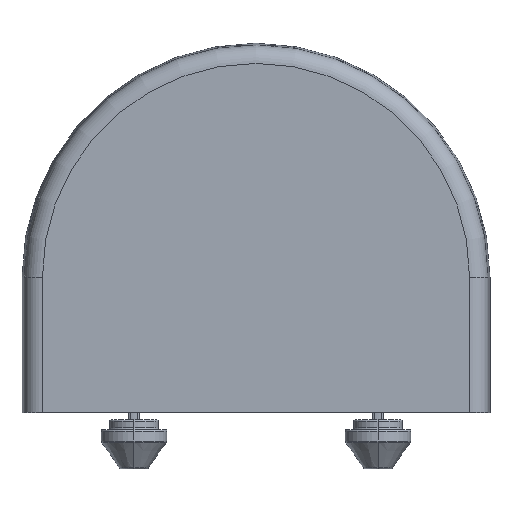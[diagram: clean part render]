
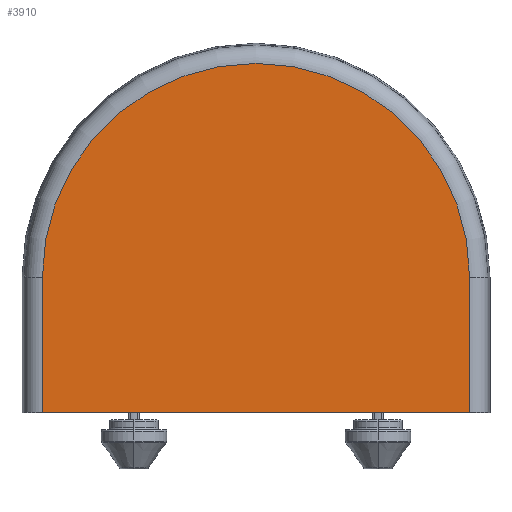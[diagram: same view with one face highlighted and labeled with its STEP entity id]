
A CAD part, top view. The second image highlights one B-rep face of the part: STEP entity #3910.
In plain terms, the highlighted planar face has unit normal (0, 0, 1).
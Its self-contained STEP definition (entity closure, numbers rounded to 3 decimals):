
#213=DIRECTION('',(-1.,0.,0.));
#214=VECTOR('',#213,35.017);
#215=CARTESIAN_POINT('',(17.508,0.,0.));
#216=LINE('',#215,#214);
#1122=DIRECTION('',(0.,-1.,0.));
#1123=VECTOR('',#1122,11.1);
#1124=CARTESIAN_POINT('',(17.509,11.1,0.));
#1125=LINE('',#1124,#1123);
#1161=DIRECTION('',(0.,1.,0.));
#1162=VECTOR('',#1161,11.1);
#1163=CARTESIAN_POINT('',(-17.508,0.,0.));
#1164=LINE('',#1163,#1162);
#1175=CARTESIAN_POINT('',(0.,11.1,0.));
#1176=DIRECTION('',(0.,0.,1.));
#1177=DIRECTION('',(1.,0.,0.));
#1178=AXIS2_PLACEMENT_3D('',#1175,#1176,#1177);
#2757=CARTESIAN_POINT('',(-17.508,0.,0.));
#2758=CARTESIAN_POINT('',(-17.509,11.1,0.));
#2759=VERTEX_POINT('',#2757);
#2760=VERTEX_POINT('',#2758);
#2832=CARTESIAN_POINT('',(17.508,0.,0.));
#2833=VERTEX_POINT('',#2832);
#2994=CARTESIAN_POINT('',(17.509,11.1,0.));
#2995=VERTEX_POINT('',#2994);
#3899=CARTESIAN_POINT('',(0.,0.,0.));
#3900=DIRECTION('',(0.,0.,1.));
#3901=DIRECTION('',(1.,0.,0.));
#3902=AXIS2_PLACEMENT_3D('',#3899,#3900,#3901);
#3903=PLANE('',#3902);
#3904=ORIENTED_EDGE('',*,*,#3083,.T.);
#3905=ORIENTED_EDGE('',*,*,#3891,.T.);
#3906=ORIENTED_EDGE('',*,*,#3880,.F.);
#3907=ORIENTED_EDGE('',*,*,#3865,.T.);
#3908=EDGE_LOOP('',(#3904,#3905,#3906,#3907));
#3909=FACE_OUTER_BOUND('',#3908,.F.);
#1179=CIRCLE('',#1178,17.509);
#3083=EDGE_CURVE('',#2833,#2759,#216,.T.);
#3865=EDGE_CURVE('',#2995,#2833,#1125,.T.);
#3880=EDGE_CURVE('',#2995,#2760,#1179,.T.);
#3891=EDGE_CURVE('',#2759,#2760,#1164,.T.);
#3910=ADVANCED_FACE('',(#3909),#3903,.T.);
